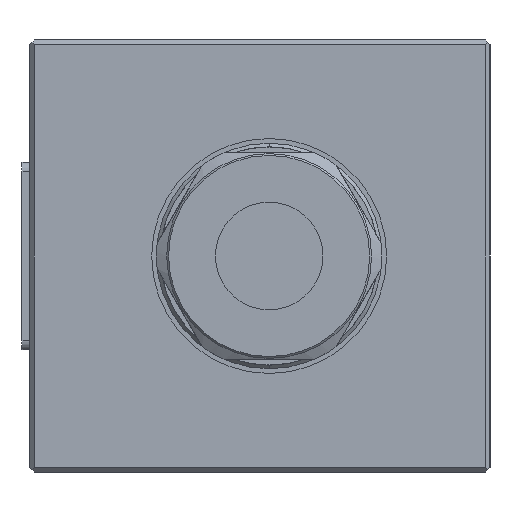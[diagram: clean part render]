
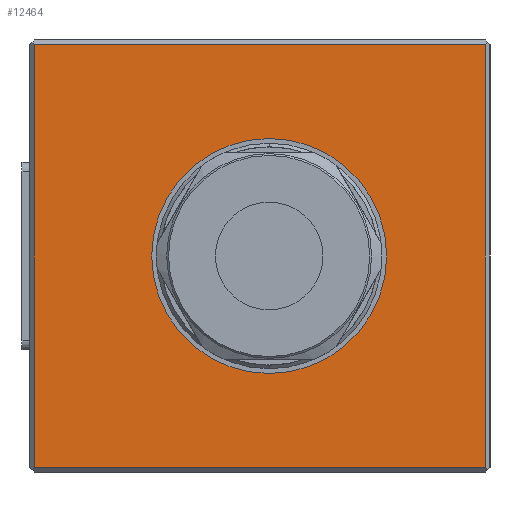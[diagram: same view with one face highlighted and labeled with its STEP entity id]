
A CAD part, left-side view. The second image highlights one B-rep face of the part: STEP entity #12464.
In plain terms, the highlighted planar face has unit normal (-1, 0, 0).
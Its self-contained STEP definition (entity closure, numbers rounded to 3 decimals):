
#89 = DIRECTION ( 'NONE',  ( -1., 0., 0. ) ) ;
#362 = VERTEX_POINT ( 'NONE', #2277 ) ;
#731 = LINE ( 'NONE', #5063, #5915 ) ;
#1099 = ORIENTED_EDGE ( 'NONE', *, *, #14482, .T. ) ;
#1245 = VERTEX_POINT ( 'NONE', #2845 ) ;
#1551 = CARTESIAN_POINT ( 'NONE',  ( -34., 24.5, -23. ) ) ;
#2277 = CARTESIAN_POINT ( 'NONE',  ( -34., -23.5, -22.5 ) ) ;
#2805 = CIRCLE ( 'NONE', #14373, 12.5 ) ;
#2845 = CARTESIAN_POINT ( 'NONE',  ( -34., 24.5, 22.5 ) ) ;
#2976 = FACE_BOUND ( 'NONE', #12419, .T. ) ;
#3528 = DIRECTION ( 'NONE',  ( 0., -1., 0. ) ) ;
#3553 = CARTESIAN_POINT ( 'NONE',  ( -34., -0.5, 0. ) ) ;
#3650 = DIRECTION ( 'NONE',  ( 0., 0., -1. ) ) ;
#4308 = ORIENTED_EDGE ( 'NONE', *, *, #19688, .T. ) ;
#4382 = EDGE_CURVE ( 'NONE', #1245, #7109, #9288, .T. ) ;
#4890 = CIRCLE ( 'NONE', #14479, 12.5 ) ;
#5063 = CARTESIAN_POINT ( 'NONE',  ( -34., 25., -22.5 ) ) ;
#5915 = VECTOR ( 'NONE', #3528, 1000. ) ;
#6183 = CARTESIAN_POINT ( 'NONE',  ( -34., -0.5, 0. ) ) ;
#6616 = DIRECTION ( 'NONE',  ( 0., 1., 0. ) ) ;
#6691 = DIRECTION ( 'NONE',  ( 0., 0., 1. ) ) ;
#6735 = CARTESIAN_POINT ( 'NONE',  ( -34., -23.5, 22.5 ) ) ;
#6815 = VECTOR ( 'NONE', #6616, 1000. ) ;
#6914 = DIRECTION ( 'NONE',  ( 0., 0., -1. ) ) ;
#7109 = VERTEX_POINT ( 'NONE', #13857 ) ;
#7911 = CARTESIAN_POINT ( 'NONE',  ( -34., 25., -23. ) ) ;
#8116 = CARTESIAN_POINT ( 'NONE',  ( -34., -23.5, -23. ) ) ;
#8135 = EDGE_CURVE ( 'NONE', #15228, #9039, #4890, .T. ) ;
#8362 = ORIENTED_EDGE ( 'NONE', *, *, #12487, .T. ) ;
#9039 = VERTEX_POINT ( 'NONE', #12342 ) ;
#9288 = LINE ( 'NONE', #1551, #18703 ) ;
#9480 = PLANE ( 'NONE',  #17599 ) ;
#9619 = LINE ( 'NONE', #15938, #6815 ) ;
#9929 = ORIENTED_EDGE ( 'NONE', *, *, #4382, .T. ) ;
#10023 = DIRECTION ( 'NONE',  ( 1., 0., 0. ) ) ;
#11097 = ORIENTED_EDGE ( 'NONE', *, *, #8135, .T. ) ;
#11335 = VERTEX_POINT ( 'NONE', #6735 ) ;
#12163 = DIRECTION ( 'NONE',  ( 0., -1., 0. ) ) ;
#12342 = CARTESIAN_POINT ( 'NONE',  ( -34., -0.5, 12.5 ) ) ;
#12419 = EDGE_LOOP ( 'NONE', ( #11097, #4308 ) ) ;
#12464 = ADVANCED_FACE ( 'NONE', ( #12574, #2976 ), #9480, .T. ) ;
#12487 = EDGE_CURVE ( 'NONE', #362, #11335, #17545, .T. ) ;
#12574 = FACE_OUTER_BOUND ( 'NONE', #20387, .T. ) ;
#12968 = VECTOR ( 'NONE', #6691, 1000. ) ;
#13857 = CARTESIAN_POINT ( 'NONE',  ( -34., 24.5, -22.5 ) ) ;
#13956 = CARTESIAN_POINT ( 'NONE',  ( -34., -0.5, -12.5 ) ) ;
#14373 = AXIS2_PLACEMENT_3D ( 'NONE', #3553, #17718, #3650 ) ;
#14479 = AXIS2_PLACEMENT_3D ( 'NONE', #6183, #10023, #6914 ) ;
#14482 = EDGE_CURVE ( 'NONE', #11335, #1245, #9619, .T. ) ;
#15228 = VERTEX_POINT ( 'NONE', #13956 ) ;
#15938 = CARTESIAN_POINT ( 'NONE',  ( -34., 25., 22.5 ) ) ;
#16213 = EDGE_CURVE ( 'NONE', #7109, #362, #731, .T. ) ;
#17369 = DIRECTION ( 'NONE',  ( 0., 0., -1. ) ) ;
#17545 = LINE ( 'NONE', #8116, #12968 ) ;
#17599 = AXIS2_PLACEMENT_3D ( 'NONE', #7911, #89, #12163 ) ;
#17718 = DIRECTION ( 'NONE',  ( 1., 0., 0. ) ) ;
#18703 = VECTOR ( 'NONE', #17369, 1000. ) ;
#19391 = ORIENTED_EDGE ( 'NONE', *, *, #16213, .T. ) ;
#19688 = EDGE_CURVE ( 'NONE', #9039, #15228, #2805, .T. ) ;
#20387 = EDGE_LOOP ( 'NONE', ( #19391, #8362, #1099, #9929 ) ) ;
